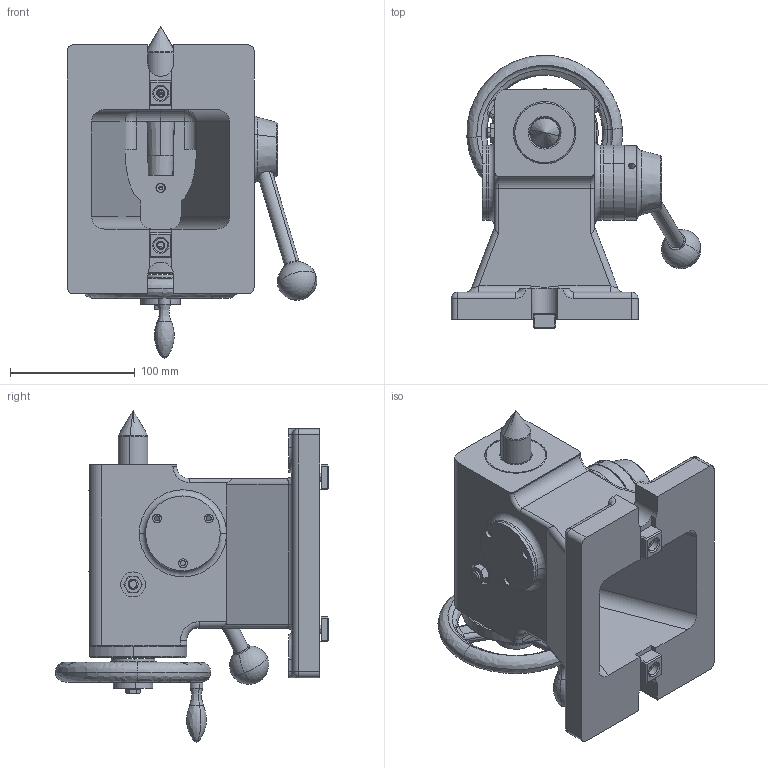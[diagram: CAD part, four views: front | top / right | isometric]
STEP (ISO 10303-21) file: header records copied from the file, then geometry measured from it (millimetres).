
FILE_DESCRIPTION (( 'STEP AP203' ), '1' );
FILE_NAME ('2520027 THC200.STEP', '2020-12-05T05:16:44', ( '' ), ( '' ), 'SwSTEP 2.0', 'SolidWorks 2019', '' );
FILE_SCHEMA (( 'CONFIG_CONTROL_DESIGN' ));
Length unit declared in the file: millimetre
Products named in the file (1): 2520027 THC200
Bounding box: 200.33 x 219.4 x 266.5 mm (x, y, z)
Surface area: 241938.9 mm2 (no closed solid volume)
Topology: 0 solids, 24 shells, 416 faces, 1201 edges, 783 vertices
Faces by surface type: cylinder 141, plane 127, bspline 66, cone 50, torus 18, sphere 14
Entity records: 28729 total; most frequent: CARTESIAN_POINT 18176, DIRECTION 2171, ORIENTED_EDGE 2082, EDGE_CURVE 1181, AXIS2_PLACEMENT_3D 876, VERTEX_POINT 779, CIRCLE 525, EDGE_LOOP 500
